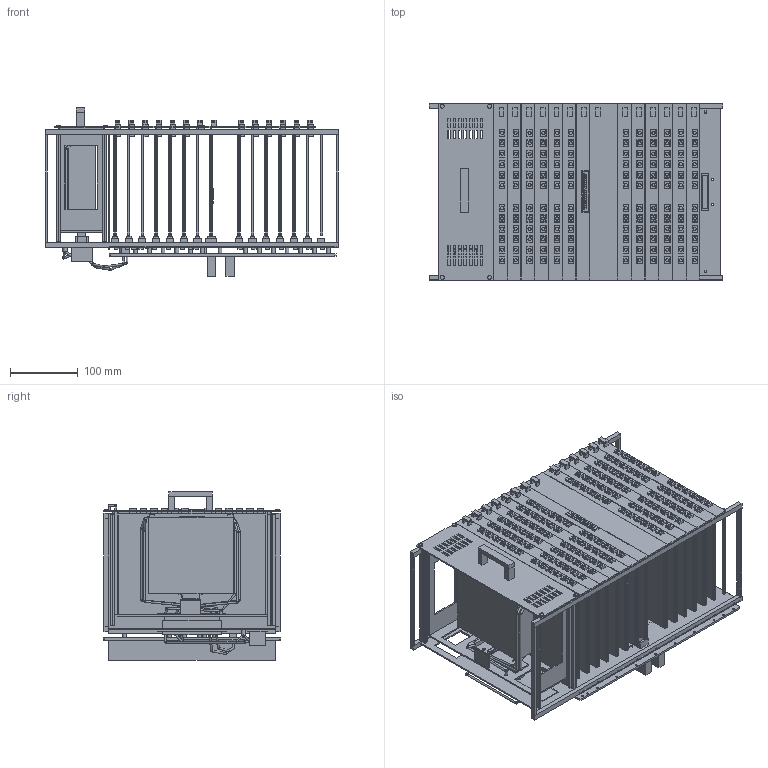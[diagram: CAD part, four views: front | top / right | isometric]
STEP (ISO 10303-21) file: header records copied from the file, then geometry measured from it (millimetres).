
FILE_DESCRIPTION(('FreeCAD Model'),'2;1');
FILE_NAME('Open CASCADE Shape Model','2026-11-21T23:08:42',(''),(''), 'Open CASCADE STEP processor 7.8','FreeCAD','Unknown');
FILE_SCHEMA(('AUTOMOTIVE_DESIGN { 1 0 10303 214 1 1 1 1 }'));
Length unit declared in the file: millimetre
Products named in the file (110): PSCONT 6U - 14 common sockets, X2 empty; support001; support; bars; bar0; bar1; bp; backplane; posts; post; frame001; frame; socket; common_sock; master_sock; C1; plug; card; pwm_face; latch; optic; guide001; guide; C2; C3; C4; C5; C6; X1; dac_face; dacplug; H1; H2; H3; H4; H5; H6; M; mplug; m_face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
Assembly tree (413 placements, depth 3):
  PSCONT 6U - 14 common sockets, X2 empty
    support001
      support
    bars
      bar0
      bar1
    bp
      backplane
    posts
      post  x36
    frame001
      frame
    socket
      common_sock  x14
      master_sock  x2
    C1
      plug
      card
      pwm_face
      latch
      optic  x12
    guide001
      guide  x30
    C2
      plug
      card
      pwm_face
      latch
      optic  x12
    C3
      plug
      card
      pwm_face
      latch
      optic  x12
    C4
      plug
      card
      pwm_face
      latch
      optic  x12
    C5
      plug
      card
      pwm_face
      latch
      optic  x12
    C6
      plug
      card
      pwm_face
      latch
      optic  x12
    X1
      plug
      card
      dac_face
      latch
      dacplug
    H1
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Bounding box: 433 x 262.05 x 249 mm (x, y, z)
Volume: 2887673.4 mm3; surface area: 2418135.5 mm2
Topology: 511 solids, 511 shells, 4338 faces, 9231 edges, 6154 vertices
Faces by surface type: plane 3825, cylinder 513
Full cylindrical faces by diameter (mm): 1.3 x37, 2.1 x17, 2.7 x40, 2.85 x32, 2.9 x81, 3.2 x72, 3.3 x14, 3.4 x6, 4.5 x12, 4.6 x144, 5 x1, 5.5 x36, 6 x5
Entity records: 39104 total; most frequent: DIRECTION 6632, CARTESIAN_POINT 6238, ORIENTED_EDGE 5496, EDGE_CURVE 2748, AXIS2_PLACEMENT_3D 2226, LINE 2180, VECTOR 2180, VERTEX_POINT 1832
